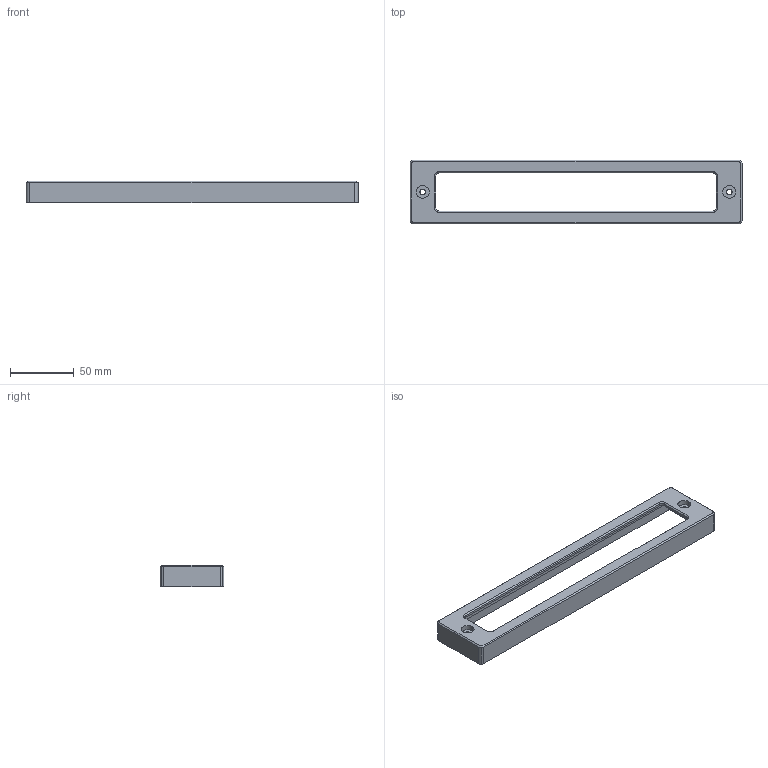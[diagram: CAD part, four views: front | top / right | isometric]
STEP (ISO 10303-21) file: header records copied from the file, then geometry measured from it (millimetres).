
FILE_DESCRIPTION(('STEP AP214'),'1');
FILE_NAME('F:/3D Zeichnungen/Konstruktionszeichnungen neuer Stand/tmp0.step','2023-09-20T11:34:50',(' '),(' '),'Spatial InterOp 3D',' ',' ');
FILE_SCHEMA(('automotive_design'));
Length unit declared in the file: millimetre
Products named in the file (1): 1
Bounding box: 260 x 50 x 17 mm (x, y, z)
Volume: 66487.6 mm3; surface area: 32264.1 mm2
Topology: 1 solids, 1 shells, 94 faces, 243 edges, 154 vertices
Faces by surface type: cylinder 42, plane 36, cone 16
Entity records: 3663 total; most frequent: DIRECTION 533, CARTESIAN_POINT 492, ORIENTED_EDGE 486, EDGE_CURVE 243, AXIS2_PLACEMENT_3D 195, VERTEX_POINT 154, LINE 143, VECTOR 143
